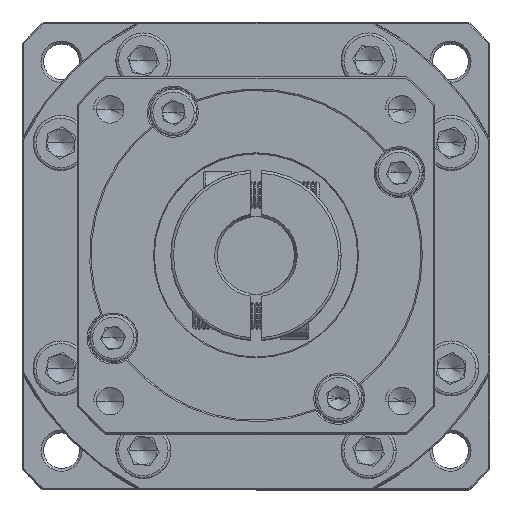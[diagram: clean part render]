
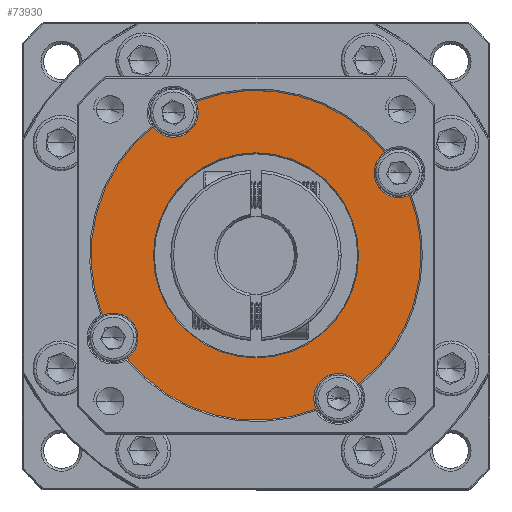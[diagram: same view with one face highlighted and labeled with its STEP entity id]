
A CAD part, top view. The second image highlights one B-rep face of the part: STEP entity #73930.
In plain terms, the highlighted planar face has unit normal (0, 0, 1).
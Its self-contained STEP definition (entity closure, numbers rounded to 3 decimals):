
#56 = EDGE_CURVE ( 'NONE', #23010, #107269, #101542, .T. ) ;
#639 = DIRECTION ( 'NONE',  ( 1., 0., 0. ) ) ;
#2960 = EDGE_CURVE ( 'NONE', #46468, #84983, #92022, .T. ) ;
#3675 = CARTESIAN_POINT ( 'NONE',  ( -42.395, 38.715, 4.648 ) ) ;
#5245 = EDGE_CURVE ( 'NONE', #18526, #45556, #26375, .T. ) ;
#5728 = CARTESIAN_POINT ( 'NONE',  ( -55.339, -5.983, 4.648 ) ) ;
#6771 = VERTEX_POINT ( 'NONE', #7648 ) ;
#7648 = CARTESIAN_POINT ( 'NONE',  ( -84.484, 19.997, 4.648 ) ) ;
#8263 = CARTESIAN_POINT ( 'NONE',  ( -93.771, 9.052, 4.648 ) ) ;
#11319 = ORIENTED_EDGE ( 'NONE', *, *, #80658, .F. ) ;
#11686 = CIRCLE ( 'NONE', #108623, 30. ) ;
#11689 = CIRCLE ( 'NONE', #32681, 30. ) ;
#13755 = AXIS2_PLACEMENT_3D ( 'NONE', #74041, #22282, #82681 ) ;
#13813 = VERTEX_POINT ( 'NONE', #33815 ) ;
#15200 = ORIENTED_EDGE ( 'NONE', *, *, #70202, .T. ) ;
#15442 = AXIS2_PLACEMENT_3D ( 'NONE', #96021, #44254, #104656 ) ;
#16037 = ORIENTED_EDGE ( 'NONE', *, *, #96017, .F. ) ;
#18526 = VERTEX_POINT ( 'NONE', #54323 ) ;
#18853 = CARTESIAN_POINT ( 'NONE',  ( -54.894, -7.935, 4.648 ) ) ;
#21383 = DIRECTION ( 'NONE',  ( 0., 0., 1. ) ) ;
#22282 = DIRECTION ( 'NONE',  ( 0., 0., -1. ) ) ;
#22310 = CARTESIAN_POINT ( 'NONE',  ( -50.839, -5.983, 4.648 ) ) ;
#22379 = ORIENTED_EDGE ( 'NONE', *, *, #50900, .F. ) ;
#22528 = DIRECTION ( 'NONE',  ( 0., 0., 1. ) ) ;
#23010 = VERTEX_POINT ( 'NONE', #3675 ) ;
#23271 = CARTESIAN_POINT ( 'NONE',  ( -65.839, 19.997, 4.648 ) ) ;
#23986 = DIRECTION ( 'NONE',  ( 0., 0., 1. ) ) ;
#23997 = CIRCLE ( 'NONE', #69532, 4.5 ) ;
#24773 = DIRECTION ( 'NONE',  ( 0., 0., 1. ) ) ;
#24811 = DIRECTION ( 'NONE',  ( 0., 0., 1. ) ) ;
#26269 = CARTESIAN_POINT ( 'NONE',  ( -89.284, 1.28, 4.648 ) ) ;
#26375 = CIRCLE ( 'NONE', #102022, 4.5 ) ;
#30061 = ORIENTED_EDGE ( 'NONE', *, *, #56, .T. ) ;
#30906 = DIRECTION ( 'NONE',  ( 0., 0., 1. ) ) ;
#31054 = DIRECTION ( 'NONE',  ( 1., 0., 0. ) ) ;
#31389 = VERTEX_POINT ( 'NONE', #26269 ) ;
#31689 = VERTEX_POINT ( 'NONE', #5728 ) ;
#32019 = DIRECTION ( 'NONE',  ( 1., 0., 0. ) ) ;
#32681 = AXIS2_PLACEMENT_3D ( 'NONE', #74284, #22528, #82913 ) ;
#32929 = CARTESIAN_POINT ( 'NONE',  ( -80.839, 45.978, 4.648 ) ) ;
#33815 = CARTESIAN_POINT ( 'NONE',  ( -47.195, 19.997, 4.648 ) ) ;
#34909 = ORIENTED_EDGE ( 'NONE', *, *, #2960, .F. ) ;
#35013 = AXIS2_PLACEMENT_3D ( 'NONE', #22310, #82705, #31054 ) ;
#36059 = DIRECTION ( 'NONE',  ( 0., 0., 1. ) ) ;
#36125 = DIRECTION ( 'NONE',  ( 0., 0., 1. ) ) ;
#37051 = EDGE_CURVE ( 'NONE', #13813, #6771, #46420, .T. ) ;
#37112 = VERTEX_POINT ( 'NONE', #18853 ) ;
#37993 = CARTESIAN_POINT ( 'NONE',  ( -35.839, 19.997, 4.648 ) ) ;
#38534 = CARTESIAN_POINT ( 'NONE',  ( -76.339, 45.978, 4.648 ) ) ;
#38588 = EDGE_CURVE ( 'NONE', #31689, #37112, #75593, .T. ) ;
#40314 = PLANE ( 'NONE',  #83839 ) ;
#41599 = DIRECTION ( 'NONE',  ( 1., 0., 0. ) ) ;
#42938 = CARTESIAN_POINT ( 'NONE',  ( -39.859, 34.997, 4.648 ) ) ;
#44254 = DIRECTION ( 'NONE',  ( 0., 0., 1. ) ) ;
#44333 = AXIS2_PLACEMENT_3D ( 'NONE', #42938, #103352, #51723 ) ;
#44694 = VERTEX_POINT ( 'NONE', #56088 ) ;
#45556 = VERTEX_POINT ( 'NONE', #49386 ) ;
#45749 = CARTESIAN_POINT ( 'NONE',  ( -87.32, 4.997, 4.648 ) ) ;
#45879 = AXIS2_PLACEMENT_3D ( 'NONE', #104219, #52591, #639 ) ;
#46420 = CIRCLE ( 'NONE', #45879, 18.644 ) ;
#46468 = VERTEX_POINT ( 'NONE', #45749 ) ;
#46581 = VERTEX_POINT ( 'NONE', #38534 ) ;
#47199 = ORIENTED_EDGE ( 'NONE', *, *, #37051, .T. ) ;
#49234 = FACE_OUTER_BOUND ( 'NONE', #55666, .T. ) ;
#49386 = CARTESIAN_POINT ( 'NONE',  ( -37.907, 30.942, 4.648 ) ) ;
#49423 = CARTESIAN_POINT ( 'NONE',  ( -65.839, 19.997, 4.648 ) ) ;
#49817 = EDGE_CURVE ( 'NONE', #72515, #45556, #11689, .T. ) ;
#50849 = CIRCLE ( 'NONE', #13755, 18.644 ) ;
#50900 = EDGE_CURVE ( 'NONE', #79466, #31689, #101920, .T. ) ;
#51723 = DIRECTION ( 'NONE',  ( 1., 0., 0. ) ) ;
#51769 = ORIENTED_EDGE ( 'NONE', *, *, #86318, .T. ) ;
#52591 = DIRECTION ( 'NONE',  ( 0., 0., -1. ) ) ;
#53200 = CIRCLE ( 'NONE', #44333, 4.5 ) ;
#54323 = CARTESIAN_POINT ( 'NONE',  ( -44.359, 34.997, 4.648 ) ) ;
#55666 = EDGE_LOOP ( 'NONE', ( #11319, #83741, #90637, #22379, #51769, #75166, #58803, #16037, #30061, #81724, #104559, #15200, #34909 ) ) ;
#56088 = CARTESIAN_POINT ( 'NONE',  ( -84.557, 43.442, 4.648 ) ) ;
#56797 = CIRCLE ( 'NONE', #95516, 4.5 ) ;
#58135 = DIRECTION ( 'NONE',  ( 1., 0., 0. ) ) ;
#58165 = ORIENTED_EDGE ( 'NONE', *, *, #112051, .T. ) ;
#58803 = ORIENTED_EDGE ( 'NONE', *, *, #5245, .F. ) ;
#62777 = EDGE_CURVE ( 'NONE', #46581, #107269, #23997, .T. ) ;
#63441 = AXIS2_PLACEMENT_3D ( 'NONE', #82547, #30906, #91269 ) ;
#69532 = AXIS2_PLACEMENT_3D ( 'NONE', #76542, #24811, #85200 ) ;
#70202 = EDGE_CURVE ( 'NONE', #44694, #84983, #73178, .T. ) ;
#72166 = FACE_BOUND ( 'NONE', #93145, .T. ) ;
#72515 = VERTEX_POINT ( 'NONE', #37993 ) ;
#73158 = CARTESIAN_POINT ( 'NONE',  ( -65.839, 19.997, 4.648 ) ) ;
#73178 = CIRCLE ( 'NONE', #100156, 30. ) ;
#73930 = ADVANCED_FACE ( 'NONE', ( #72166, #49234 ), #40314, .T. ) ;
#74041 = CARTESIAN_POINT ( 'NONE',  ( -65.839, 19.997, 4.648 ) ) ;
#74284 = CARTESIAN_POINT ( 'NONE',  ( -65.839, 19.997, 4.648 ) ) ;
#74804 = CARTESIAN_POINT ( 'NONE',  ( -76.784, 47.929, 4.648 ) ) ;
#75166 = ORIENTED_EDGE ( 'NONE', *, *, #49817, .T. ) ;
#75593 = CIRCLE ( 'NONE', #63441, 4.5 ) ;
#75699 = CARTESIAN_POINT ( 'NONE',  ( -65.839, 19.997, 4.648 ) ) ;
#76494 = CARTESIAN_POINT ( 'NONE',  ( -91.82, 4.997, 4.648 ) ) ;
#76542 = CARTESIAN_POINT ( 'NONE',  ( -80.839, 45.978, 4.648 ) ) ;
#79466 = VERTEX_POINT ( 'NONE', #90090 ) ;
#80658 = EDGE_CURVE ( 'NONE', #31389, #46468, #56797, .T. ) ;
#81724 = ORIENTED_EDGE ( 'NONE', *, *, #62777, .F. ) ;
#81765 = DIRECTION ( 'NONE',  ( 1., 0., 0. ) ) ;
#82547 = CARTESIAN_POINT ( 'NONE',  ( -50.839, -5.983, 4.648 ) ) ;
#82681 = DIRECTION ( 'NONE',  ( 1., 0., 0. ) ) ;
#82705 = DIRECTION ( 'NONE',  ( 0., 0., 1. ) ) ;
#82913 = DIRECTION ( 'NONE',  ( 1., 0., 0. ) ) ;
#83640 = DIRECTION ( 'NONE',  ( 0., 0., 1. ) ) ;
#83741 = ORIENTED_EDGE ( 'NONE', *, *, #101549, .T. ) ;
#83839 = AXIS2_PLACEMENT_3D ( 'NONE', #49423, #109744, #58135 ) ;
#84355 = DIRECTION ( 'NONE',  ( 1., 0., 0. ) ) ;
#84983 = VERTEX_POINT ( 'NONE', #8263 ) ;
#85159 = DIRECTION ( 'NONE',  ( 1., 0., 0. ) ) ;
#85200 = DIRECTION ( 'NONE',  ( 1., 0., 0. ) ) ;
#86318 = EDGE_CURVE ( 'NONE', #79466, #72515, #107367, .T. ) ;
#87717 = CARTESIAN_POINT ( 'NONE',  ( -91.82, 4.997, 4.648 ) ) ;
#87782 = CARTESIAN_POINT ( 'NONE',  ( -39.859, 34.997, 4.648 ) ) ;
#89688 = AXIS2_PLACEMENT_3D ( 'NONE', #75699, #23986, #84355 ) ;
#90090 = CARTESIAN_POINT ( 'NONE',  ( -47.122, -3.447, 4.648 ) ) ;
#90470 = AXIS2_PLACEMENT_3D ( 'NONE', #87717, #36059, #96496 ) ;
#90637 = ORIENTED_EDGE ( 'NONE', *, *, #38588, .F. ) ;
#91269 = DIRECTION ( 'NONE',  ( 1., 0., 0. ) ) ;
#92022 = CIRCLE ( 'NONE', #90470, 4.5 ) ;
#93145 = EDGE_LOOP ( 'NONE', ( #47199, #58165 ) ) ;
#93345 = DIRECTION ( 'NONE',  ( 0., 0., 1. ) ) ;
#95516 = AXIS2_PLACEMENT_3D ( 'NONE', #76494, #24773, #85159 ) ;
#96017 = EDGE_CURVE ( 'NONE', #23010, #18526, #53200, .T. ) ;
#96021 = CARTESIAN_POINT ( 'NONE',  ( -65.839, 19.997, 4.648 ) ) ;
#96496 = DIRECTION ( 'NONE',  ( 1., 0., 0. ) ) ;
#96562 = DIRECTION ( 'NONE',  ( 1., 0., 0. ) ) ;
#100156 = AXIS2_PLACEMENT_3D ( 'NONE', #73158, #21383, #81765 ) ;
#101542 = CIRCLE ( 'NONE', #15442, 30. ) ;
#101549 = EDGE_CURVE ( 'NONE', #31389, #37112, #11686, .T. ) ;
#101920 = CIRCLE ( 'NONE', #35013, 4.5 ) ;
#102022 = AXIS2_PLACEMENT_3D ( 'NONE', #87782, #36125, #96562 ) ;
#103352 = DIRECTION ( 'NONE',  ( 0., 0., 1. ) ) ;
#104219 = CARTESIAN_POINT ( 'NONE',  ( -65.839, 19.997, 4.648 ) ) ;
#104559 = ORIENTED_EDGE ( 'NONE', *, *, #105857, .F. ) ;
#104656 = DIRECTION ( 'NONE',  ( 1., 0., 0. ) ) ;
#105857 = EDGE_CURVE ( 'NONE', #44694, #46581, #107787, .T. ) ;
#106366 = AXIS2_PLACEMENT_3D ( 'NONE', #32929, #93345, #41599 ) ;
#107269 = VERTEX_POINT ( 'NONE', #74804 ) ;
#107367 = CIRCLE ( 'NONE', #89688, 30. ) ;
#107787 = CIRCLE ( 'NONE', #106366, 4.5 ) ;
#108623 = AXIS2_PLACEMENT_3D ( 'NONE', #23271, #83640, #32019 ) ;
#109744 = DIRECTION ( 'NONE',  ( 0., 0., 1. ) ) ;
#112051 = EDGE_CURVE ( 'NONE', #6771, #13813, #50849, .T. ) ;
